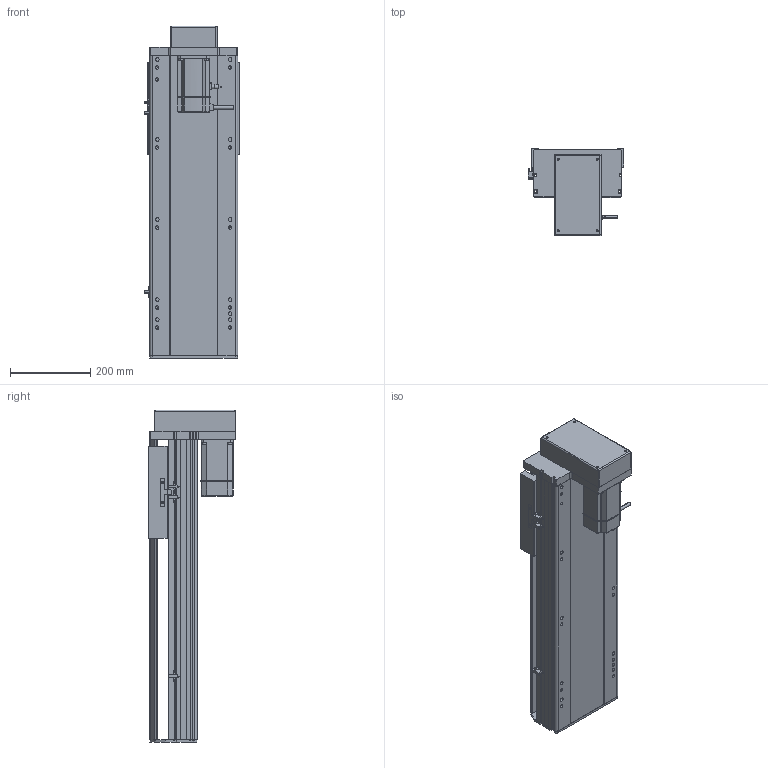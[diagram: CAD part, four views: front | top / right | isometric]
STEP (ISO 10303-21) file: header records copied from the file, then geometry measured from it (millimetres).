
FILE_DESCRIPTION (( 'STEP AP214' ), '1' );
FILE_NAME ('RTH22-XX-450-M-M75-C4.STEP', '2025-10-24T11:07:40', ( 'Microsoft' ), ( 'Microsoft' ), 'SwSTEP 2.0', 'SolidWorks 2018', '' );
FILE_SCHEMA (( 'AUTOMOTIVE_DESIGN' ));
Length unit declared in the file: millimetre
Products named in the file (10): N_RTH22-GY-013外置感应片^RTH22-XX-XX-M-M75-C4; N_RTH22-L-004-SFS25賑釱^RTH22-XX-XX-M-M75-C4; N_RTH22-M-018裔赽^RTH22-XX-XX-M-M75-C4; N_RTH22-GY-001耜裔^RTH22-XX-XX-M-M75-C4; N_OMRON EE-SX672 传感器^RTH22-XX-XX-M-M75-C4; N_750W萇儂^RTH22-XX-XX-M-M75-C4; N_RTH22-M-008-P75萇儂啣^RTH22-XX-XX-M-M75-C4; N_RTH22-L-011菁釱^RTH22-XX-XX-M-M75-C4; N_RTH22-M-007奻裔^RTH22-XX-XX-M-M75-C4; RTH22-XX-450-M-M75-C4
Assembly tree (11 placements, depth 2):
  RTH22-XX-450-M-M75-C4
    N_RTH22-L-011菁釱^RTH22-XX-XX-M-M75-C4
    N_RTH22-GY-001耜裔^RTH22-XX-XX-M-M75-C4
    N_750W萇儂^RTH22-XX-XX-M-M75-C4
    N_RTH22-M-008-P75萇儂啣^RTH22-XX-XX-M-M75-C4
    N_RTH22-M-007奻裔^RTH22-XX-XX-M-M75-C4
    N_RTH22-M-018裔赽^RTH22-XX-XX-M-M75-C4
    N_OMRON EE-SX672 传感器^RTH22-XX-XX-M-M75-C4  x3
    N_RTH22-GY-013外置感应片^RTH22-XX-XX-M-M75-C4
    N_RTH22-L-004-SFS25賑釱^RTH22-XX-XX-M-M75-C4
Bounding box: 238.5 x 218.5 x 829.7 mm (x, y, z)
Volume: 12409111.5 mm3; surface area: 1431113.3 mm2
Topology: 11 solids, 11 shells, 1587 faces, 4330 edges, 2795 vertices
Faces by surface type: plane 803, cylinder 451, bspline 279, cone 54
Entity records: 39683 total; most frequent: CARTESIAN_POINT 12068, ORIENTED_EDGE 5644, DIRECTION 5296, EDGE_CURVE 2822, VERTEX_POINT 1831, LINE 1770, VECTOR 1770, AXIS2_PLACEMENT_3D 1763
